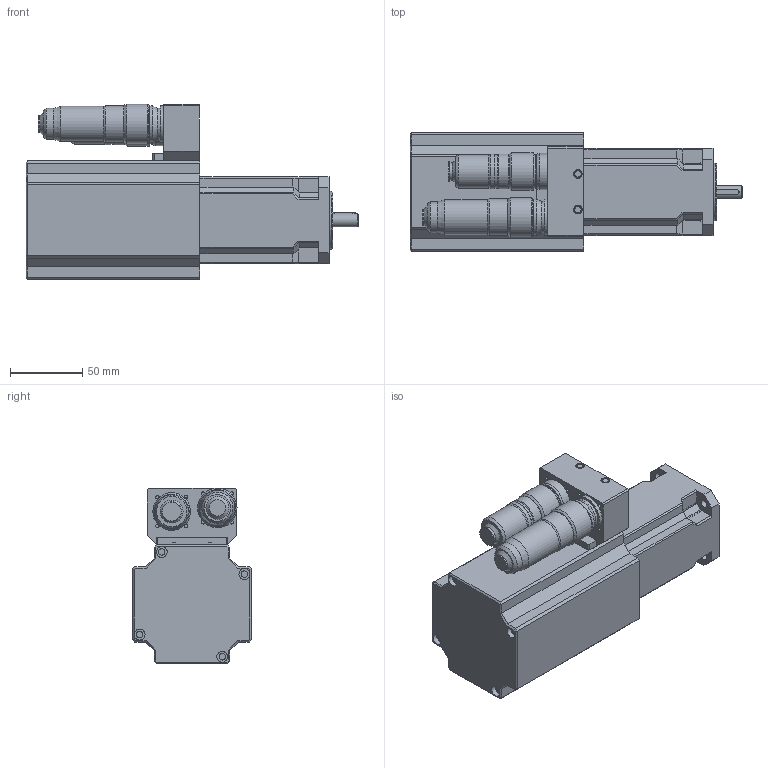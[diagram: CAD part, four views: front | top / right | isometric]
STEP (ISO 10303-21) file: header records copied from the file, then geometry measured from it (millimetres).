
FILE_DESCRIPTION((''),'2;1');
FILE_NAME('I:\Disegni_Meccanici_MOTORI_(3D)\SMB\60\stp\SMEA60-1.4-8-9-2ID-A6-A7-3D.stp','2009-01-30T16:52:25',('fm025178'),(''),'Autodesk Inventor 2008','Autodesk Inventor 2008','');
FILE_SCHEMA(('AUTOMOTIVE_DESIGN { 1 0 10303 214 1 1 1 1 }'));
Length unit declared in the file: millimetre
Products named in the file (11): SMEA60-1; SMEA60-1.4-8-9-2ID-A6-A7-3D1; SMEA60-1.4-8-9-2ID-A6-A7-3D2; SMEA60-1.4-8-9-2ID-A6-A7-3D3; SMEA60-1.4-8-9-2ID-A6-A7-3D4; SMEA60-1.4-8-9-2ID-A6-A7-3D5; SMEA60-1.4-8-9-2ID-A6-A7-3D6; SMEA60-1.4-8-9-2ID-A6-A7-3D7; SMEA60-1.4-8-9-2ID-A6-A7-3D8; SMEA60-1.4-8-9-2ID-A6-A7-3D9; SMEA60-1.4-8-9-2ID-A6-A7-3D10
Assembly tree (10 placements, depth 2):
  SMEA60-1
    SMEA60-1.4-8-9-2ID-A6-A7-3D1
    SMEA60-1.4-8-9-2ID-A6-A7-3D2
    SMEA60-1.4-8-9-2ID-A6-A7-3D3
    SMEA60-1.4-8-9-2ID-A6-A7-3D4
    SMEA60-1.4-8-9-2ID-A6-A7-3D5
    SMEA60-1.4-8-9-2ID-A6-A7-3D6
    SMEA60-1.4-8-9-2ID-A6-A7-3D7
    SMEA60-1.4-8-9-2ID-A6-A7-3D8
    SMEA60-1.4-8-9-2ID-A6-A7-3D9
    SMEA60-1.4-8-9-2ID-A6-A7-3D10
Bounding box: 229 x 82 x 121.1 mm (x, y, z)
Volume: 476620.1 mm3; surface area: 167863.1 mm2
Topology: 11 solids, 19 shells, 572 faces, 1317 edges, 832 vertices
Faces by surface type: plane 274, cylinder 155, bspline 89, cone 40, torus 14
Full cylindrical faces by diameter (mm): 2.387 x8, 3 x8, 3.5 x4, 4 x7, 4.5 x4, 5.5 x4, 6 x4, 7.5 x4, 9 x1, 11.207 x1, 11.977 x1, 12 x1, 13.472 x1, 15 x1, 16 x1, 19.8 x1, 20 x2, 20.5 x1, 21.5 x1, 21.522 x1, 22.5 x1, 23 x3, 24 x2, 24.2 x1, 25 x3, 25.2 x1, 26 x1, 27.2 x1, 28 x1, 32 x3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
Entity records: 17598 total; most frequent: CARTESIAN_POINT 4950, DIRECTION 2658, ORIENTED_EDGE 2272, EDGE_CURVE 1136, AXIS2_PLACEMENT_3D 1060, VERTEX_POINT 807, EDGE_LOOP 805, FACE_OUTER_BOUND 572
